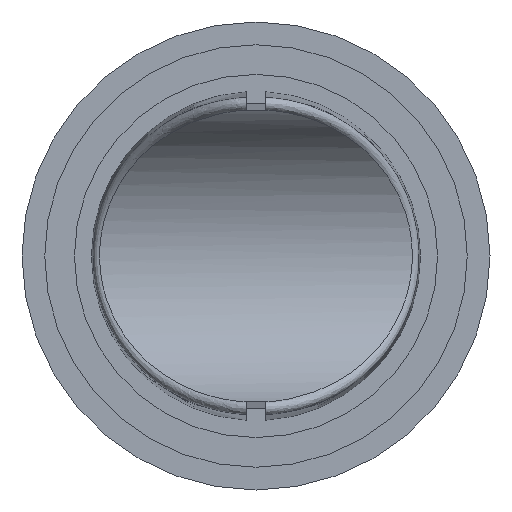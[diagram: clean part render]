
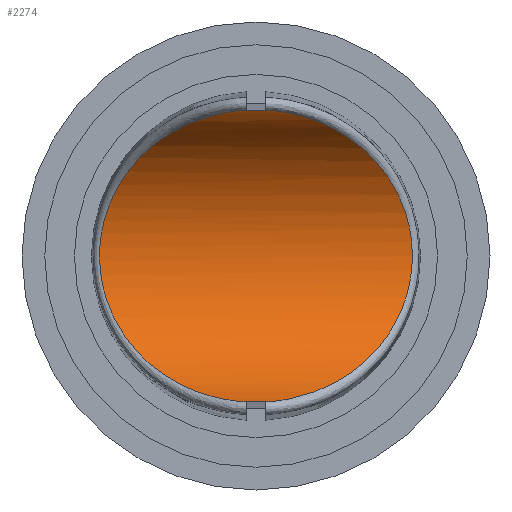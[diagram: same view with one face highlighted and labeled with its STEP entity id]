
A CAD part, left-side view. The second image highlights one B-rep face of the part: STEP entity #2274.
In plain terms, the highlighted cylindrical face has radius 46.7 mm (diameter 93.4 mm), a partial arc.
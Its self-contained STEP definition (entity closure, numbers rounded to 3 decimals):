
#30=B_SPLINE_CURVE_WITH_KNOTS($,3,(#3757,#3758,#3759,#3760,#3761,#3762,
#3763,#3764,#3765,#3766,#3767,#3768,#3769,#3770,#3771,#3772,#3773,#3774,
#3775,#3776,#3777,#3778),.UNSPECIFIED.,.F.,.F.,(4,1,1,1,1,1,1,1,1,1,1,1,
1,1,1,1,1,1,1,4),(25.455,25.999,26.58,27.742,
28.904,30.067,30.648,31.229,32.391,
33.94,34.715,35.49,37.039,37.62,
38.783,39.364,40.526,40.671,41.107,
41.651),.UNSPECIFIED.);
#31=B_SPLINE_CURVE_WITH_KNOTS($,3,(#3797,#3798,#3799,#3800,#3801,#3802,
#3803,#3804,#3805,#3806,#3807,#3808,#3809,#3810,#3811,#3812,#3813,#3814,
#3815,#3816,#3817,#3818),.UNSPECIFIED.,.F.,.F.,(4,1,1,1,1,1,1,1,1,1,1,1,
1,1,1,1,1,1,1,4),(25.501,26.045,26.626,27.788,
28.95,29.531,30.112,30.887,32.436,
33.986,34.76,35.341,36.503,37.084,
38.246,39.408,40.57,41.151,41.297,
41.696),.UNSPECIFIED.);
#89=LINE($,#3793,#287);
#90=LINE($,#3821,#288);
#287=VECTOR($,#2820,6.);
#288=VECTOR($,#2825,6.);
#595=FACE_OUTER_BOUND($,#730,.T.);
#730=EDGE_LOOP($,(#1664,#1665,#1666,#1667,#1668,#1669,#1670,#1671));
#863=CIRCLE($,#2445,46.7);
#864=CIRCLE($,#2447,46.7);
#865=CIRCLE($,#2448,46.7);
#866=CIRCLE($,#2449,46.7);
#992=VERTEX_POINT($,#3608);
#995=VERTEX_POINT($,#3738);
#996=VERTEX_POINT($,#3780);
#999=VERTEX_POINT($,#3790);
#1000=VERTEX_POINT($,#3792);
#1001=VERTEX_POINT($,#3794);
#1002=VERTEX_POINT($,#3796);
#1003=VERTEX_POINT($,#3819);
#1244=EDGE_CURVE($,#995,#992,#30,.T.);
#1245=EDGE_CURVE($,#996,#992,#863,.T.);
#1249=EDGE_CURVE($,#995,#999,#864,.T.);
#1250=EDGE_CURVE($,#999,#1000,#89,.T.);
#1251=EDGE_CURVE($,#1000,#1001,#865,.T.);
#1252=EDGE_CURVE($,#1002,#1001,#31,.T.);
#1253=EDGE_CURVE($,#1002,#1003,#866,.T.);
#1254=EDGE_CURVE($,#1003,#996,#90,.T.);
#1664=ORIENTED_EDGE($,*,*,#1244,.F.);
#1665=ORIENTED_EDGE($,*,*,#1249,.T.);
#1666=ORIENTED_EDGE($,*,*,#1250,.T.);
#1667=ORIENTED_EDGE($,*,*,#1251,.T.);
#1668=ORIENTED_EDGE($,*,*,#1252,.F.);
#1669=ORIENTED_EDGE($,*,*,#1253,.T.);
#1670=ORIENTED_EDGE($,*,*,#1254,.T.);
#1671=ORIENTED_EDGE($,*,*,#1245,.T.);
#2169=CYLINDRICAL_SURFACE($,#2446,46.7);
#2274=ADVANCED_FACE($,(#595),#2169,.F.);
#2445=AXIS2_PLACEMENT_3D($,#3781,#2812,#2813);
#2446=AXIS2_PLACEMENT_3D($,#3789,#2816,#2817);
#2447=AXIS2_PLACEMENT_3D($,#3791,#2818,#2819);
#2448=AXIS2_PLACEMENT_3D($,#3795,#2821,#2822);
#2449=AXIS2_PLACEMENT_3D($,#3820,#2823,#2824);
#2812=DIRECTION('center_axis',(0.,-1.,0.));
#2813=DIRECTION('ref_axis',(1.,0.,0.));
#2816=DIRECTION('center_axis',(0.,1.,0.));
#2817=DIRECTION('ref_axis',(1.,0.,0.));
#2818=DIRECTION('center_axis',(0.,-1.,0.));
#2819=DIRECTION('ref_axis',(1.,0.,0.));
#2820=DIRECTION($,(0.,-1.,0.));
#2821=DIRECTION('center_axis',(0.,1.,0.));
#2822=DIRECTION('ref_axis',(1.,0.,0.));
#2823=DIRECTION('center_axis',(0.,1.,0.));
#2824=DIRECTION('ref_axis',(1.,0.,0.));
#2825=DIRECTION($,(0.,1.,0.));
#3608=CARTESIAN_POINT('',(44.876,3.,67.077));
#3738=CARTESIAN_POINT('',(-44.876,3.,67.077));
#3757=CARTESIAN_POINT('Ctrl Pts',(-44.876,3.,67.077));
#3758=CARTESIAN_POINT('Ctrl Pts',(-44.779,4.778,66.739));
#3759=CARTESIAN_POINT('Ctrl Pts',(-44.403,8.306,65.468));
#3760=CARTESIAN_POINT('Ctrl Pts',(-43.082,14.749,61.742));
#3761=CARTESIAN_POINT('Ctrl Pts',(-40.416,22.099,56.172));
#3762=CARTESIAN_POINT('Ctrl Pts',(-35.702,30.063,49.492));
#3763=CARTESIAN_POINT('Ctrl Pts',(-30.34,36.,44.26));
#3764=CARTESIAN_POINT('Ctrl Pts',(-25.204,40.109,40.584));
#3765=CARTESIAN_POINT('Ctrl Pts',(-19.426,43.741,37.303));
#3766=CARTESIAN_POINT('Ctrl Pts',(-10.027,47.602,33.781));
#3767=CARTESIAN_POINT('Ctrl Pts',(1.316,48.62,32.845));
#3768=CARTESIAN_POINT('Ctrl Pts',(11.046,46.884,34.437));
#3769=CARTESIAN_POINT('Ctrl Pts',(20.055,43.663,37.373));
#3770=CARTESIAN_POINT('Ctrl Pts',(27.157,38.912,41.677));
#3771=CARTESIAN_POINT('Ctrl Pts',(33.601,32.521,47.326));
#3772=CARTESIAN_POINT('Ctrl Pts',(37.328,27.455,51.711));
#3773=CARTESIAN_POINT('Ctrl Pts',(40.939,20.658,57.263));
#3774=CARTESIAN_POINT('Ctrl Pts',(42.68,15.859,60.901));
#3775=CARTESIAN_POINT('Ctrl Pts',(43.834,11.082,63.864));
#3776=CARTESIAN_POINT('Ctrl Pts',(44.451,7.863,65.623));
#3777=CARTESIAN_POINT('Ctrl Pts',(44.779,4.779,66.738));
#3778=CARTESIAN_POINT('Ctrl Pts',(44.876,3.,67.077));
#3780=CARTESIAN_POINT('',(44.625,3.,66.234));
#3781=CARTESIAN_POINT('Origin',(0.,3.,80.));
#3789=CARTESIAN_POINT('Origin',(0.,0.,80.));
#3790=CARTESIAN_POINT('',(-44.625,3.,66.234));
#3791=CARTESIAN_POINT('Origin',(0.,3.,80.));
#3792=CARTESIAN_POINT('',(-44.625,-3.,66.234));
#3793=CARTESIAN_POINT($,(-44.625,0.,66.234));
#3794=CARTESIAN_POINT('',(-44.876,-3.,67.077));
#3795=CARTESIAN_POINT('Origin',(0.,-3.,80.));
#3796=CARTESIAN_POINT('',(44.876,-3.,67.077));
#3797=CARTESIAN_POINT('Ctrl Pts',(44.876,-3.,67.077));
#3798=CARTESIAN_POINT('Ctrl Pts',(44.779,-4.777,66.739));
#3799=CARTESIAN_POINT('Ctrl Pts',(44.404,-8.309,65.467));
#3800=CARTESIAN_POINT('Ctrl Pts',(43.078,-14.753,61.739));
#3801=CARTESIAN_POINT('Ctrl Pts',(40.424,-22.092,56.177));
#3802=CARTESIAN_POINT('Ctrl Pts',(36.471,-28.756,50.59));
#3803=CARTESIAN_POINT('Ctrl Pts',(32.495,-33.615,46.36));
#3804=CARTESIAN_POINT('Ctrl Pts',(28.667,-37.412,43.002));
#3805=CARTESIAN_POINT('Ctrl Pts',(22.136,-42.451,38.48));
#3806=CARTESIAN_POINT('Ctrl Pts',(11.276,-47.497,33.877));
#3807=CARTESIAN_POINT('Ctrl Pts',(-1.32,-48.616,32.849));
#3808=CARTESIAN_POINT('Ctrl Pts',(-10.443,-46.991,34.338));
#3809=CARTESIAN_POINT('Ctrl Pts',(-17.829,-44.529,36.584));
#3810=CARTESIAN_POINT('Ctrl Pts',(-23.899,-41.147,39.654));
#3811=CARTESIAN_POINT('Ctrl Pts',(-30.329,-36.013,44.249));
#3812=CARTESIAN_POINT('Ctrl Pts',(-35.68,-30.088,49.47));
#3813=CARTESIAN_POINT('Ctrl Pts',(-40.409,-22.121,56.155));
#3814=CARTESIAN_POINT('Ctrl Pts',(-43.075,-14.769,61.728));
#3815=CARTESIAN_POINT('Ctrl Pts',(-44.169,-9.45,64.807));
#3816=CARTESIAN_POINT('Ctrl Pts',(-44.647,-6.028,66.29));
#3817=CARTESIAN_POINT('Ctrl Pts',(-44.805,-4.303,66.829));
#3818=CARTESIAN_POINT('Ctrl Pts',(-44.876,-3.,67.077));
#3819=CARTESIAN_POINT('',(44.625,-3.,66.234));
#3820=CARTESIAN_POINT('Origin',(0.,-3.,80.));
#3821=CARTESIAN_POINT($,(44.625,0.,66.234));
